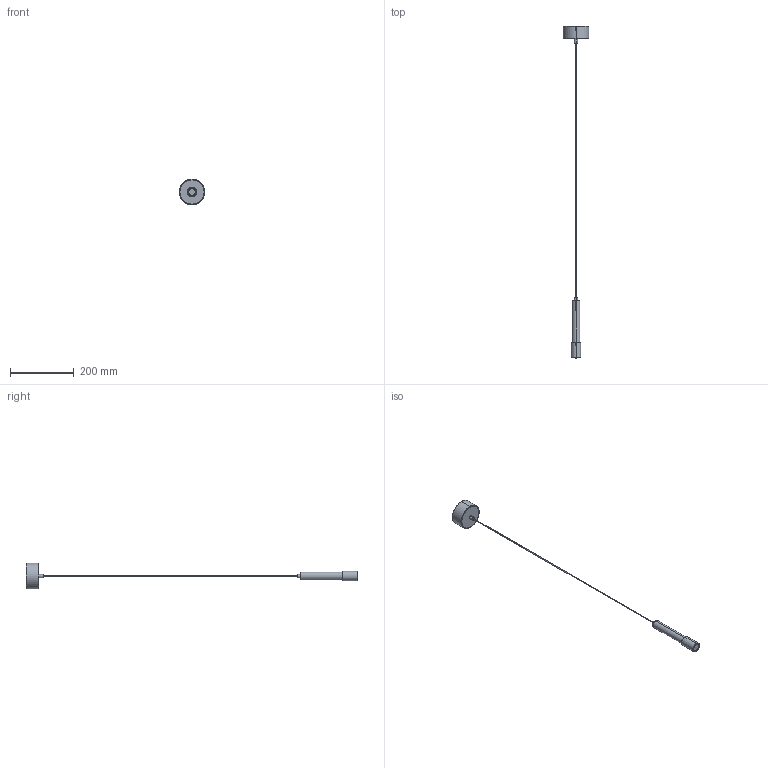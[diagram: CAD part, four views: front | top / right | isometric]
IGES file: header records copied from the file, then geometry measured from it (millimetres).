
Start section: SolidWorks IGES file using analytic representation for surfaces
Global section: file name: C:\Users\Agus\Desktop\Novedades Enero_2022 - 3D\pomo\C1297.IGS; native system: SolidWorks 2018; preprocessor: SolidWorks 2018; author: Agus; date: 220221.110642; units: millimetre
Bounding box: 80 x 1045 x 80 mm (x, y, z)
Surface area: 54847.2 mm2 (no closed solid volume)
Topology: 0 solids, 0 shells, 36 faces, 848 edges, 848 vertices
Faces by surface type: revolution 18, bspline 18
